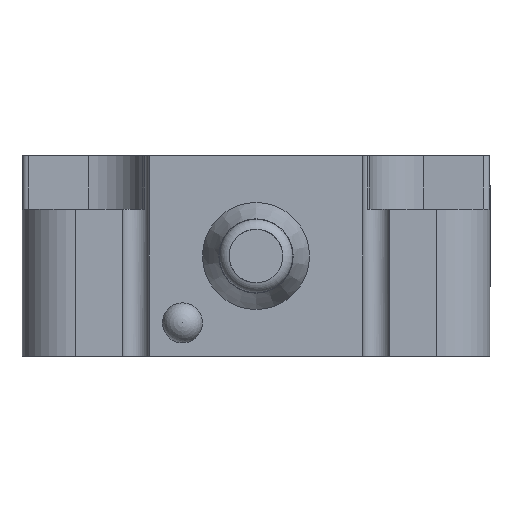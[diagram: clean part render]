
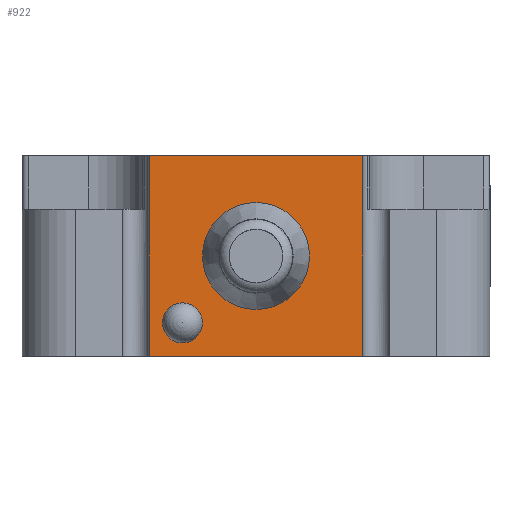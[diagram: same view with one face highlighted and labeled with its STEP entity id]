
A CAD part, left-side view. The second image highlights one B-rep face of the part: STEP entity #922.
In plain terms, the highlighted planar face has unit normal (-1, 0, 0).
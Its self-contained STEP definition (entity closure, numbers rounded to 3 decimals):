
#922=ADVANCED_FACE('',(#2622,#2623,#2624),#2625,.F.);
#2622=FACE_BOUND('',#5182,.T.);
#2623=FACE_BOUND('',#5183,.T.);
#2624=FACE_OUTER_BOUND('',#5184,.T.);
#2625=PLANE('',#5185);
#5182=EDGE_LOOP('',(#7929));
#5183=EDGE_LOOP('',(#7930));
#5184=EDGE_LOOP('',(#7931,#7932,#7933,#7934));
#5185=AXIS2_PLACEMENT_3D('',#7935,#7936,#7937);
#7929=ORIENTED_EDGE('',*,*,#15668,.T.);
#7930=ORIENTED_EDGE('',*,*,#15669,.T.);
#7931=ORIENTED_EDGE('',*,*,#15670,.F.);
#7932=ORIENTED_EDGE('',*,*,#15671,.F.);
#7933=ORIENTED_EDGE('',*,*,#15576,.F.);
#7934=ORIENTED_EDGE('',*,*,#15672,.T.);
#7935=CARTESIAN_POINT('',(-17.5,17.5,15.0));
#7936=DIRECTION('',(1.0,0.0,0.0));
#7937=DIRECTION('',(0.0,0.0,-1.0));
#15576=EDGE_CURVE('',#18765,#18757,#18767,.T.);
#15668=EDGE_CURVE('',#18931,#18931,#18932,.T.);
#15669=EDGE_CURVE('',#18933,#18933,#18934,.T.);
#15670=EDGE_CURVE('',#18935,#18936,#18937,.F.);
#15671=EDGE_CURVE('',#18757,#18935,#18938,.T.);
#15672=EDGE_CURVE('',#18765,#18936,#18939,.T.);
#18757=VERTEX_POINT('',#23462);
#18765=VERTEX_POINT('',#23472);
#18767=LINE('',#23474,#23475);
#18931=VERTEX_POINT('',#23713);
#18932=CIRCLE('',#23714,4.0);
#18933=VERTEX_POINT('',#23715);
#18934=CIRCLE('',#23716,1.5);
#18935=VERTEX_POINT('',#23717);
#18936=VERTEX_POINT('',#23718);
#18937=LINE('',#23719,#23720);
#18938=LINE('',#23721,#23722);
#18939=LINE('',#23723,#23724);
#23462=CARTESIAN_POINT('',(-17.5,8.0,15.));
#23472=CARTESIAN_POINT('',(-17.5,8.0,0.));
#23474=CARTESIAN_POINT('',(-17.5,8.0,0.));
#23475=VECTOR('',#30097,1.0);
#23713=CARTESIAN_POINT('',(-17.5,0.,3.5));
#23714=AXIS2_PLACEMENT_3D('',#30175,#30176,#30177);
#23715=CARTESIAN_POINT('',(-17.5,7.0,2.5));
#23716=AXIS2_PLACEMENT_3D('',#30178,#30179,#30180);
#23717=CARTESIAN_POINT('',(-17.5,-8.0,15.));
#23718=CARTESIAN_POINT('',(-17.5,-8.0,0.));
#23719=CARTESIAN_POINT('',(-17.5,-8.0,0.));
#23720=VECTOR('',#30181,1.0);
#23721=CARTESIAN_POINT('',(-17.5,17.5,15.0));
#23722=VECTOR('',#30182,1.0);
#23723=CARTESIAN_POINT('',(-17.5,17.5,0.0));
#23724=VECTOR('',#30183,1.0);
#30097=DIRECTION('',(0.0,0.0,1.0));
#30175=CARTESIAN_POINT('',(-17.5,0.,7.5));
#30176=DIRECTION('',(1.0,0.0,0.));
#30177=DIRECTION('',(0.,0.0,-1.0));
#30178=CARTESIAN_POINT('',(-17.5,5.5,2.5));
#30179=DIRECTION('',(1.0,0.0,0.0));
#30180=DIRECTION('',(0.0,1.0,0.0));
#30181=DIRECTION('',(0.0,0.0,1.0));
#30182=DIRECTION('',(0.0,-1.0,0.0));
#30183=DIRECTION('',(0.0,-1.0,0.0));
